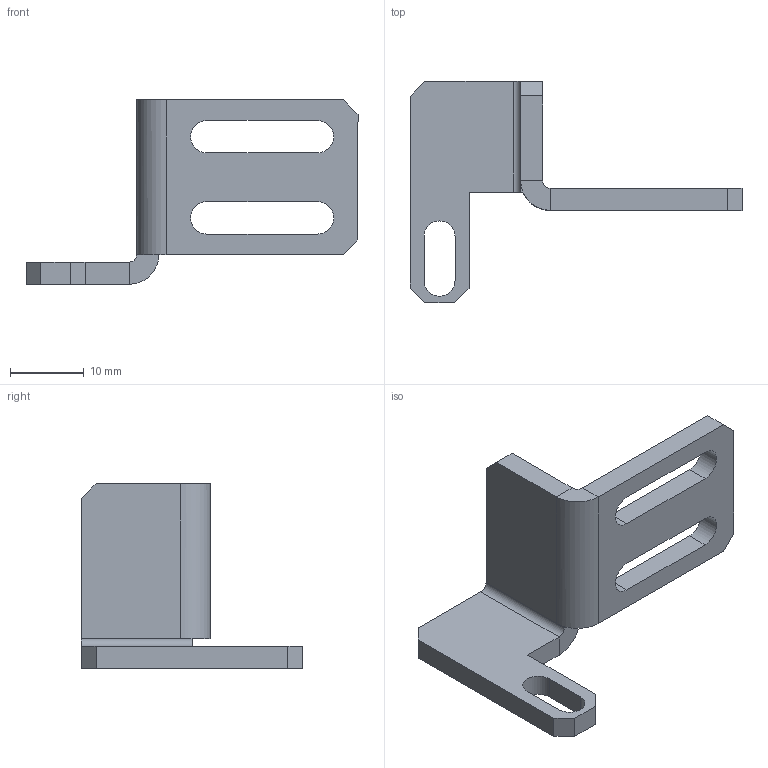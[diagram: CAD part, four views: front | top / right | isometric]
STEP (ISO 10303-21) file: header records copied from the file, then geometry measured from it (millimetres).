
FILE_DESCRIPTION (( 'STEP AP214' ), '1' );
FILE_NAME ('GZ29.21_V1随动器支架.STEP', '2021-07-06T09:07:20', ( '微软中国' ), ( 'Microsoft' ), 'SwSTEP 2.0', 'SolidWorks 2017', '' );
FILE_SCHEMA (( 'AUTOMOTIVE_DESIGN' ));
Length unit declared in the file: millimetre
Products named in the file (1): GZ29.21_V1呴雄ん盓殤
Bounding box: 45 x 30 x 25 mm (x, y, z)
Volume: 3262.2 mm3; surface area: 3076.7 mm2
Topology: 1 solids, 1 shells, 43 faces, 108 edges, 67 vertices
Faces by surface type: plane 33, cylinder 10
Entity records: 1309 total; most frequent: CARTESIAN_POINT 219, DIRECTION 217, ORIENTED_EDGE 216, EDGE_CURVE 108, LINE 87, VECTOR 87, VERTEX_POINT 67, AXIS2_PLACEMENT_3D 65
